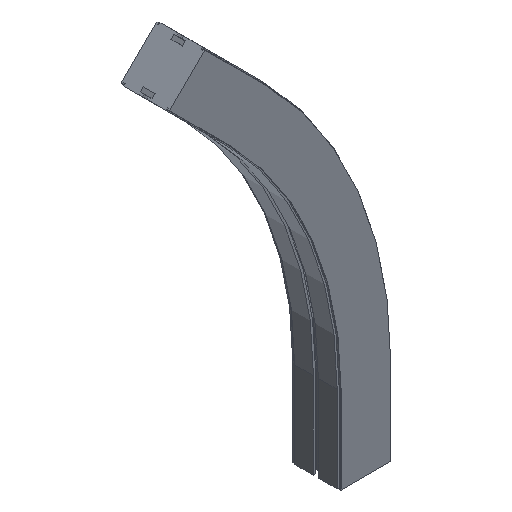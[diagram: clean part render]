
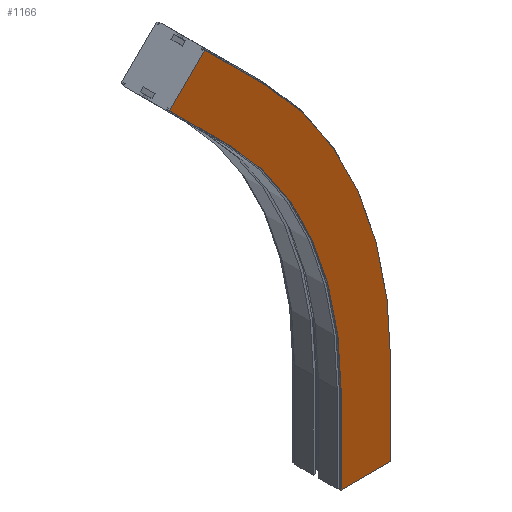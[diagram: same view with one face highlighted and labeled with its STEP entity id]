
A CAD part, isometric view. The second image highlights one B-rep face of the part: STEP entity #1166.
In plain terms, the highlighted planar face has unit normal (0, -1, 0).
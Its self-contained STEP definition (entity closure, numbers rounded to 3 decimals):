
#46 = CARTESIAN_POINT ( 'NONE',  ( -43.15, -42., 0. ) ) ;
#47 = CARTESIAN_POINT ( 'NONE',  ( 43.15, -42., 0. ) ) ;
#472 = DIRECTION ( 'NONE',  ( 1., 0., 0. ) ) ;
#473 = DIRECTION ( 'NONE',  ( 0., -1., 0. ) ) ;
#478 = CARTESIAN_POINT ( 'NONE',  ( -43.15, -42., 150. ) ) ;
#480 = PLANE ( 'NONE',  #1345 ) ;
#637 = CARTESIAN_POINT ( 'NONE',  ( -700., -42., 150. ) ) ;
#638 = DIRECTION ( 'NONE',  ( 0., -1., 0. ) ) ;
#639 = DIRECTION ( 'NONE',  ( 0., 0., -1. ) ) ;
#646 = CARTESIAN_POINT ( 'NONE',  ( -700., -42., 150. ) ) ;
#647 = DIRECTION ( 'NONE',  ( 0., -1., 0. ) ) ;
#648 = DIRECTION ( 'NONE',  ( 0., 0., -1. ) ) ;
#854 = CARTESIAN_POINT ( 'NONE',  ( -43.15, -42., 150. ) ) ;
#855 = DIRECTION ( 'NONE',  ( 0., 0., -1. ) ) ;
#858 = CARTESIAN_POINT ( 'NONE',  ( -43.15, -42., 0. ) ) ;
#859 = DIRECTION ( 'NONE',  ( -1., 0., 0. ) ) ;
#862 = CARTESIAN_POINT ( 'NONE',  ( 43.15, -42., 150. ) ) ;
#863 = DIRECTION ( 'NONE',  ( 0., 0., -1. ) ) ;
#866 = CARTESIAN_POINT ( 'NONE',  ( -341.603, -42., 720.529 ) ) ;
#867 = DIRECTION ( 'NONE',  ( -0.707, 0., -0.707 ) ) ;
#954 = CARTESIAN_POINT ( 'NONE',  ( -235.537, -42., 614.463 ) ) ;
#957 = CARTESIAN_POINT ( 'NONE',  ( -174.514, -42., 675.486 ) ) ;
#960 = CARTESIAN_POINT ( 'NONE',  ( -341.603, -42., 720.529 ) ) ;
#964 = CARTESIAN_POINT ( 'NONE',  ( -280.58, -42., 781.552 ) ) ;
#1011 = CARTESIAN_POINT ( 'NONE',  ( -43.15, -42., 150. ) ) ;
#1014 = CARTESIAN_POINT ( 'NONE',  ( 43.15, -42., 150. ) ) ;
#1037 = DIRECTION ( 'NONE',  ( -0.707, 0., 0.707 ) ) ;
#1058 = CARTESIAN_POINT ( 'NONE',  ( -235.537, -42., 614.463 ) ) ;
#1064 = DIRECTION ( 'NONE',  ( -0.707, 0., 0.707 ) ) ;
#1066 = CARTESIAN_POINT ( 'NONE',  ( -174.514, -42., 675.486 ) ) ;
#1166 = ADVANCED_FACE ( 'NONE', ( #1906 ), #480, .T. ) ;
#1269 = EDGE_CURVE ( 'NONE', #2481, #2487, #1692, .T. ) ;
#1274 = EDGE_CURVE ( 'Edge42', #2484, #2491, #1677, .T. ) ;
#1345 = AXIS2_PLACEMENT_3D ( 'NONE', #478, #473, #472 ) ;
#1465 = EDGE_CURVE ( 'NONE', #2538, #2481, #2973, .T. ) ;
#1468 = EDGE_CURVE ( 'Edge18', #2541, #2484, #2965, .T. ) ;
#1567 = EDGE_CURVE ( 'NONE', #2538, #2588, #2780, .T. ) ;
#1569 = EDGE_CURVE ( 'NONE', #2589, #2588, #2776, .T. ) ;
#1571 = EDGE_CURVE ( 'NONE', #2541, #2589, #2772, .T. ) ;
#1573 = EDGE_CURVE ( 'NONE', #2491, #2487, #2768, .T. ) ;
#1674 = VECTOR ( 'NONE', #1064, 1000. ) ;
#1677 = LINE ( 'NONE', #1066, #1674 ) ;
#1684 = VECTOR ( 'NONE', #1037, 1000. ) ;
#1692 = LINE ( 'NONE', #1058, #1684 ) ;
#1906 = FACE_OUTER_BOUND ( 'NONE', #2698, .T. ) ;
#2272 = ORIENTED_EDGE ( 'NONE', *, *, #1569, .F. ) ;
#2273 = ORIENTED_EDGE ( 'NONE', *, *, #1571, .F. ) ;
#2274 = ORIENTED_EDGE ( 'NONE', *, *, #1468, .T. ) ;
#2275 = ORIENTED_EDGE ( 'NONE', *, *, #1274, .T. ) ;
#2276 = ORIENTED_EDGE ( 'NONE', *, *, #1573, .T. ) ;
#2277 = ORIENTED_EDGE ( 'NONE', *, *, #1269, .F. ) ;
#2278 = ORIENTED_EDGE ( 'NONE', *, *, #1465, .F. ) ;
#2279 = ORIENTED_EDGE ( 'NONE', *, *, #1567, .T. ) ;
#2481 = VERTEX_POINT ( 'NONE', #954 ) ;
#2484 = VERTEX_POINT ( 'NONE', #957 ) ;
#2487 = VERTEX_POINT ( 'NONE', #960 ) ;
#2491 = VERTEX_POINT ( 'NONE', #964 ) ;
#2538 = VERTEX_POINT ( 'NONE', #1011 ) ;
#2541 = VERTEX_POINT ( 'NONE', #1014 ) ;
#2588 = VERTEX_POINT ( 'NONE', #46 ) ;
#2589 = VERTEX_POINT ( 'NONE', #47 ) ;
#2698 = EDGE_LOOP ( 'NONE', ( #2272, #2273, #2274, #2275, #2276, #2277, #2278, #2279 ) ) ;
#2765 = VECTOR ( 'NONE', #867, 1000. ) ;
#2768 = LINE ( 'NONE', #866, #2765 ) ;
#2769 = VECTOR ( 'NONE', #863, 1000. ) ;
#2772 = LINE ( 'NONE', #862, #2769 ) ;
#2773 = VECTOR ( 'NONE', #859, 1000. ) ;
#2776 = LINE ( 'NONE', #858, #2773 ) ;
#2777 = VECTOR ( 'NONE', #855, 1000. ) ;
#2780 = LINE ( 'NONE', #854, #2777 ) ;
#2965 = CIRCLE ( 'NONE', #3103, 743.15 ) ;
#2973 = CIRCLE ( 'NONE', #3105, 656.85 ) ;
#3103 = AXIS2_PLACEMENT_3D ( 'NONE', #646, #647, #648 ) ;
#3105 = AXIS2_PLACEMENT_3D ( 'NONE', #637, #638, #639 ) ;
